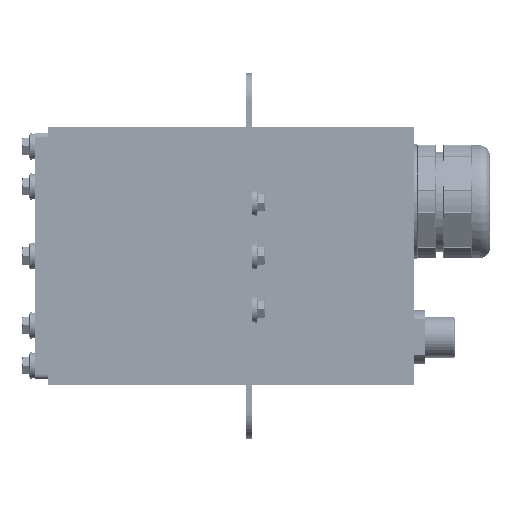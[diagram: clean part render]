
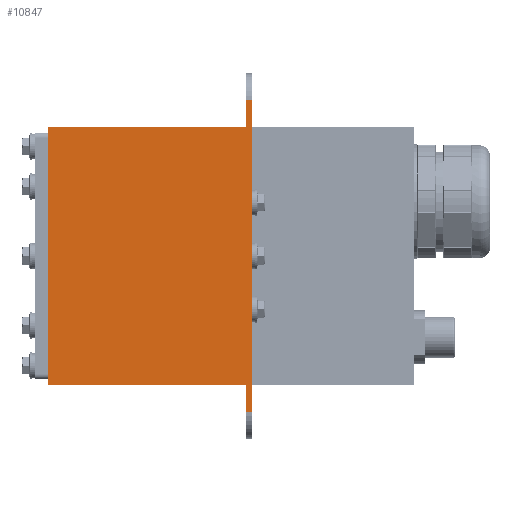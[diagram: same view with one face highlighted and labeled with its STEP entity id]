
A CAD part, left-side view. The second image highlights one B-rep face of the part: STEP entity #10847.
In plain terms, the highlighted planar face has unit normal (-1, 0, 0).
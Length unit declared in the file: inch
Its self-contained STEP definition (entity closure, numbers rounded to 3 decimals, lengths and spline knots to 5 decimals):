
#3250 = CARTESIAN_POINT ( 'NONE',  ( -9., 0.105, -2.375 ) ) ;
#3849 = DIRECTION ( 'NONE',  ( 0., -1., 0. ) ) ;
#4955 = VECTOR ( 'NONE', #70861, 39.37008 ) ;
#6524 = EDGE_CURVE ( 'NONE', #44344, #79852, #96954, .T. ) ;
#6853 = ORIENTED_EDGE ( 'NONE', *, *, #16964, .F. ) ;
#7143 = CARTESIAN_POINT ( 'NONE',  ( -9., 3.75, -2.375 ) ) ;
#7153 = AXIS2_PLACEMENT_3D ( 'NONE', #84920, #96042, #56256 ) ;
#8391 = EDGE_CURVE ( 'NONE', #42164, #118298, #100675, .T. ) ;
#10847 = ADVANCED_FACE ( 'NONE', ( #105364 ), #58065, .F. ) ;
#12722 = LINE ( 'NONE', #119069, #114740 ) ;
#16134 = LINE ( 'NONE', #55924, #112934 ) ;
#16964 = EDGE_CURVE ( 'NONE', #42164, #99576, #122174, .T. ) ;
#17630 = LINE ( 'NONE', #55552, #106991 ) ;
#18755 = VECTOR ( 'NONE', #67809, 39.37008 ) ;
#19051 = VECTOR ( 'NONE', #101043, 39.37008 ) ;
#20916 = ORIENTED_EDGE ( 'NONE', *, *, #118829, .T. ) ;
#24671 = ORIENTED_EDGE ( 'NONE', *, *, #46319, .T. ) ;
#27991 = EDGE_CURVE ( 'NONE', #79852, #39883, #62945, .T. ) ;
#28612 = LINE ( 'NONE', #49103, #18755 ) ;
#36116 = ORIENTED_EDGE ( 'NONE', *, *, #8391, .T. ) ;
#38495 = DIRECTION ( 'NONE',  ( 0., 0., 1. ) ) ;
#39883 = VERTEX_POINT ( 'NONE', #83493 ) ;
#42164 = VERTEX_POINT ( 'NONE', #7143 ) ;
#43929 = VECTOR ( 'NONE', #3849, 39.37008 ) ;
#44344 = VERTEX_POINT ( 'NONE', #98529 ) ;
#46319 = EDGE_CURVE ( 'NONE', #118298, #103139, #28612, .T. ) ;
#46454 = ORIENTED_EDGE ( 'NONE', *, *, #6524, .F. ) ;
#49103 = CARTESIAN_POINT ( 'NONE',  ( -9., 0.105, 0. ) ) ;
#50246 = CARTESIAN_POINT ( 'NONE',  ( -9., 0.105, 0. ) ) ;
#51900 = CARTESIAN_POINT ( 'NONE',  ( -9., 3.75, 2.375 ) ) ;
#54359 = CARTESIAN_POINT ( 'NONE',  ( -9., 3.75, 2.375 ) ) ;
#55210 = VECTOR ( 'NONE', #38495, 39.37008 ) ;
#55523 = EDGE_CURVE ( 'NONE', #99576, #44344, #12722, .T. ) ;
#55552 = CARTESIAN_POINT ( 'NONE',  ( -9., 0., 2.375 ) ) ;
#55924 = CARTESIAN_POINT ( 'NONE',  ( -9., 0.105, -2.875 ) ) ;
#56256 = DIRECTION ( 'NONE',  ( 0., 0., -1. ) ) ;
#58065 = PLANE ( 'NONE',  #7153 ) ;
#62945 = LINE ( 'NONE', #89130, #43929 ) ;
#63403 = DIRECTION ( 'NONE',  ( 0., -1., 0. ) ) ;
#63802 = ORIENTED_EDGE ( 'NONE', *, *, #55523, .F. ) ;
#67809 = DIRECTION ( 'NONE',  ( 0., 0., -1. ) ) ;
#70861 = DIRECTION ( 'NONE',  ( 0., -1., 0. ) ) ;
#76057 = CARTESIAN_POINT ( 'NONE',  ( -9., 0., -2.875 ) ) ;
#79559 = CARTESIAN_POINT ( 'NONE',  ( -9., 3.75, -2.375 ) ) ;
#79852 = VERTEX_POINT ( 'NONE', #91279 ) ;
#83493 = CARTESIAN_POINT ( 'NONE',  ( -9., 0., 2.875 ) ) ;
#84920 = CARTESIAN_POINT ( 'NONE',  ( -9., 3.75, 2.375 ) ) ;
#85971 = CARTESIAN_POINT ( 'NONE',  ( -9., 0.105, -2.875 ) ) ;
#89130 = CARTESIAN_POINT ( 'NONE',  ( -9., 0.105, 2.875 ) ) ;
#91279 = CARTESIAN_POINT ( 'NONE',  ( -9., 0.105, 2.875 ) ) ;
#96042 = DIRECTION ( 'NONE',  ( 1., 0., 0. ) ) ;
#96954 = LINE ( 'NONE', #50246, #55210 ) ;
#98268 = ORIENTED_EDGE ( 'NONE', *, *, #107306, .T. ) ;
#98529 = CARTESIAN_POINT ( 'NONE',  ( -9., 0.105, 2.375 ) ) ;
#98596 = DIRECTION ( 'NONE',  ( 0., -1., 0. ) ) ;
#99576 = VERTEX_POINT ( 'NONE', #51900 ) ;
#100649 = VERTEX_POINT ( 'NONE', #76057 ) ;
#100675 = LINE ( 'NONE', #79559, #4955 ) ;
#101043 = DIRECTION ( 'NONE',  ( 0., 0., 1. ) ) ;
#103139 = VERTEX_POINT ( 'NONE', #85971 ) ;
#105364 = FACE_OUTER_BOUND ( 'NONE', #114113, .T. ) ;
#106991 = VECTOR ( 'NONE', #112795, 39.37008 ) ;
#107306 = EDGE_CURVE ( 'NONE', #100649, #39883, #17630, .T. ) ;
#112795 = DIRECTION ( 'NONE',  ( 0., 0., 1. ) ) ;
#112934 = VECTOR ( 'NONE', #63403, 39.37008 ) ;
#114113 = EDGE_LOOP ( 'NONE', ( #98268, #115162, #46454, #63802, #6853, #36116, #24671, #20916 ) ) ;
#114740 = VECTOR ( 'NONE', #98596, 39.37008 ) ;
#115162 = ORIENTED_EDGE ( 'NONE', *, *, #27991, .F. ) ;
#118298 = VERTEX_POINT ( 'NONE', #3250 ) ;
#118829 = EDGE_CURVE ( 'NONE', #103139, #100649, #16134, .T. ) ;
#119069 = CARTESIAN_POINT ( 'NONE',  ( -9., 3.75, 2.375 ) ) ;
#122174 = LINE ( 'NONE', #54359, #19051 ) ;
